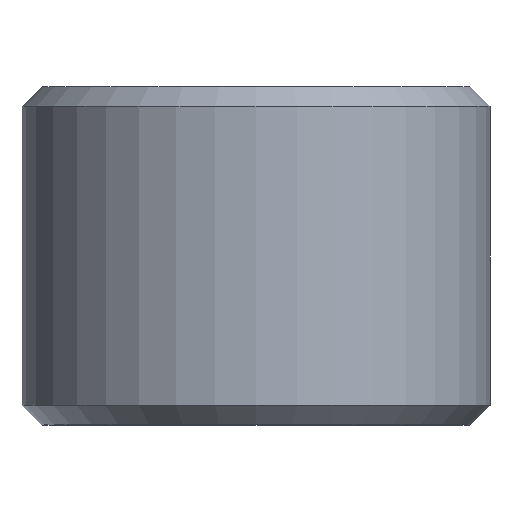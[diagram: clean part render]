
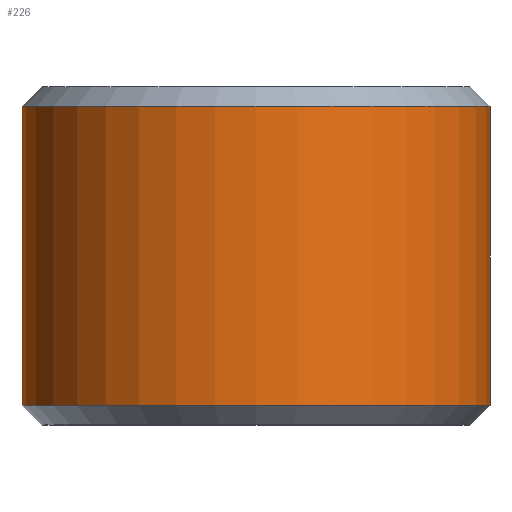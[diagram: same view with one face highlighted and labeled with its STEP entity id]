
A CAD part, top view. The second image highlights one B-rep face of the part: STEP entity #226.
In plain terms, the highlighted cylindrical face has radius 18 mm (diameter 36 mm), a full revolution.
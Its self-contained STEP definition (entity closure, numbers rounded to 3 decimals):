
#226=ADVANCED_FACE('',(#227),#257,.T.);
#227=FACE_BOUND('',#228,.T.);
#228=EDGE_LOOP('',(#229,#238,#245,#254,#256));
#229=ORIENTED_EDGE('',*,*,#230,.T.);
#230=EDGE_CURVE('',#231,#231,#233,.T.);
#231=VERTEX_POINT('',#232);
#232=CARTESIAN_POINT('',(0.,17.1,-18.0));
#233=CIRCLE('',#234,18.0);
#234=AXIS2_PLACEMENT_3D('',#235,#236,#237);
#235=CARTESIAN_POINT('',(0.0,17.1,0.0));
#236=DIRECTION('',(0.0,1.0,0.0));
#237=DIRECTION('',(0.0,0.0,-1.0));
#238=ORIENTED_EDGE('',*,*,#239,.T.);
#239=EDGE_CURVE('',#231,#240,#242,.F.);
#240=VERTEX_POINT('',#241);
#241=CARTESIAN_POINT('',(0.,40.1,-18.0));
#242=B_SPLINE_CURVE_WITH_KNOTS('',1,(#243,#244),.UNSPECIFIED.,.F.,.U.,(2,2),(-40.1,-17.1),.PIECEWISE_BEZIER_KNOTS.);
#243=CARTESIAN_POINT('',(0.,40.1,-18.0));
#244=CARTESIAN_POINT('',(0.,17.1,-18.0));
#245=ORIENTED_EDGE('',*,*,#246,.T.);
#246=EDGE_CURVE('',#240,#247,#249,.T.);
#247=VERTEX_POINT('',#248);
#248=CARTESIAN_POINT('',(0.,40.1,18.0));
#249=CIRCLE('',#250,18.0);
#250=AXIS2_PLACEMENT_3D('',#251,#252,#253);
#251=CARTESIAN_POINT('',(0.0,40.1,0.0));
#252=DIRECTION('',(0.0,-1.0,0.0));
#253=DIRECTION('',(0.0,0.0,1.0));
#254=ORIENTED_EDGE('',*,*,#255,.T.);
#255=EDGE_CURVE('',#247,#240,#249,.T.);
#256=ORIENTED_EDGE('',*,*,#239,.F.);
#257=CYLINDRICAL_SURFACE('',#258,18.0);
#258=AXIS2_PLACEMENT_3D('',#259,#260,#261);
#259=CARTESIAN_POINT('',(0.0,0.0,0.0));
#260=DIRECTION('',(0.0,-1.0,0.0));
#261=DIRECTION('',(0.0,0.0,-1.0));
